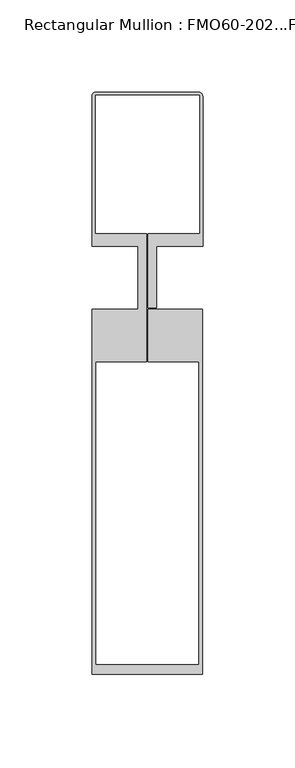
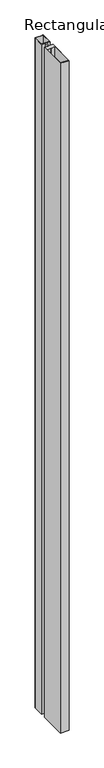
"""IFC4 building model written with IfcOpenShell, lengths in millimetres: member geometry, Rectangular Mullion : FMO60-202...FM60-81."""

from ifc_helpers import new_model, si_unit, point, frame, frame_2d, origin, place, context, project, spatial, polyline, circle_curve, trimmed, segment, composite_curve, outline, extrude, source, transform, mapped, element, save


def rectangular_mullion_fmo60_202_fm60_81_e3a3c47a(model_context):
    return source(origin(), model_context, "Body", "SweptSolid", [
        extrude(outline(composite_curve([segment(polyline([(-27.6, 100.6769598), (27.6, 100.6769598)]), True, "CONTINUOUS"), segment(trimmed(circle_curve(frame_2d((27.789691, 98.3174314)), 2.3671411), [point((27.6, 100.6769598))], [point((30.1532396, 98.4477973))], False, "CARTESIAN"), True, "CONTINUOUS"), segment(polyline([(30.1532396, 98.4477973), (30.1532396, 17.0), (5.0, 17.0), (5.0, -16.2), (0.5, -16.2), (0.5, 23.8476589), (28.7532457, 23.8476589), (28.7532457, 99.2769598), (-28.4467543, 99.2769598), (-28.4467543, 23.8476589), (-0.5, 23.8476589), (-0.5, -45.5034642), (-28.0, -45.5034642), (-28.0, -210.007942), (28.0, -210.007942), (28.0, -45.5034642), (0.5, -45.5034642), (0.5, -17.0), (30.0, -17.0), (30.0, -215.009342), (-30.0, -215.009342), (-30.0, -17.0), (-5.0, -17.0), (-5.0, 17.0), (-29.8467604, 17.0), (-29.8467604, 98.4477983)]), True, "CONTINUOUS"), segment(trimmed(circle_curve(frame_2d((-27.935127, 98.7679027)), 1.938249), [point((-29.8467604, 98.4477983))], [point((-27.6, 100.6769598))], False, "CARTESIAN"), True, "CONTINUOUS")], self_intersect=False)), frame((0.0, 0.0, -5000.0), z_axis=(0.0, 0.0, 1.0), x_axis=(1.0, 0.0, 0.0)), (0.0, 0.0, 1.0), 5000.0),
    ])


if __name__ == "__main__":
    model = new_model("IFC4")
    model_context = context("Model", 3, world=origin())
    ifc_project = project(units=[si_unit("LENGTHUNIT", "METRE", prefix="MILLI")], contexts=[model_context])
    site = spatial("IfcSite", under=ifc_project)
    building = spatial("IfcBuilding", under=site)
    placement = place(None, origin())
    rectangular_mullion_fmo60_202_fm60_81_shape = rectangular_mullion_fmo60_202_fm60_81_e3a3c47a(model_context)
    element("IfcMember", 1, ObjectType="Rectangular Mullion : FMO60-202...FM60-81", at=placement, inside=building, context=model_context, shape_type="MappedRepresentation", body=[
        mapped(rectangular_mullion_fmo60_202_fm60_81_shape, transform((0.0, 0.0, 0.0), x_axis=(1.0, 0.0, 0.0), y_axis=(0.0, 1.0, 0.0), z_axis=(0.0, 0.0, 1.0))),
    ])
    save(model, "model.ifc")
